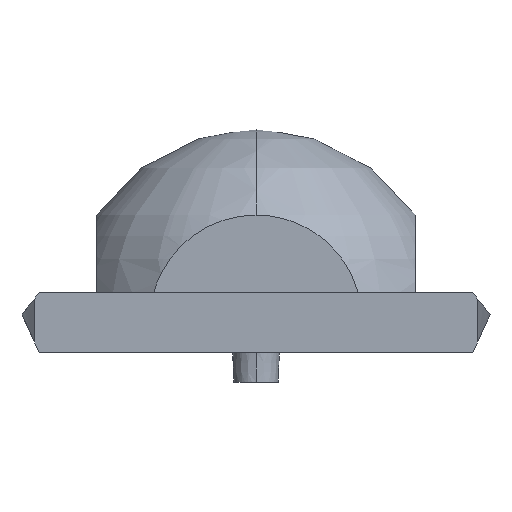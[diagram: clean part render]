
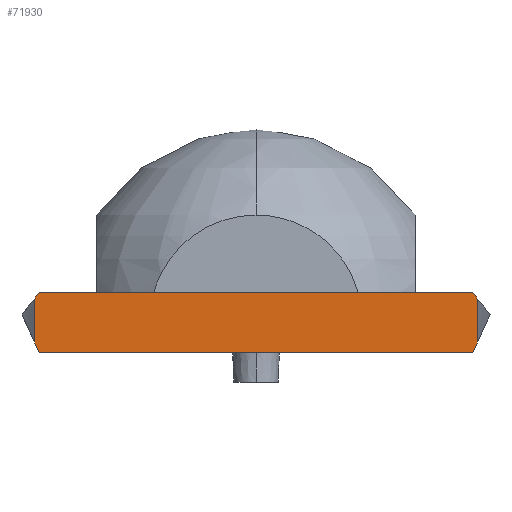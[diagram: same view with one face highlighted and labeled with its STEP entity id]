
A CAD part, left-side view. The second image highlights one B-rep face of the part: STEP entity #71930.
In plain terms, the highlighted planar face has unit normal (-1, 0, 0) as drawn and (0, 1, 0) by its records, which use the part's own axes.
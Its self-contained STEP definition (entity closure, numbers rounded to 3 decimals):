
#18320=CARTESIAN_POINT('',(96.201,9.55,
2.407));
#18330=VERTEX_POINT('',#18320);
#18500=CARTESIAN_POINT('',(96.001,9.55,2.85
));
#18510=VERTEX_POINT('',#18500);
#18540=CARTESIAN_POINT('',(96.701,9.55,1.3
));
#18550=DIRECTION('',(-0.412,0.,0.911));
#18560=VECTOR('',#18550,1.);
#18570=LINE('',#18540,#18560);
#18580=EDGE_CURVE('',#18330,#18510,#18570,.T.);
#19820=CARTESIAN_POINT('',(96.201,9.55,
0.657));
#19830=VERTEX_POINT('',#19820);
#19860=CARTESIAN_POINT('',(96.701,9.55,1.3
));
#19870=DIRECTION('',(0.614,0.,0.789));
#19880=VECTOR('',#19870,1.);
#19890=LINE('',#19860,#19880);
#19900=CARTESIAN_POINT('',(96.001,9.55,
0.4));
#19910=VERTEX_POINT('',#19900);
#19920=EDGE_CURVE('',#19910,#19830,#19890,.T.);
#25240=CARTESIAN_POINT('',(96.201,9.55,1.3
));
#25250=DIRECTION('',(0.,0.,-1.));
#25260=VECTOR('',#25250,1.);
#25270=LINE('',#25240,#25260);
#25280=EDGE_CURVE('',#18330,#19830,#25270,.T.);
#28180=CARTESIAN_POINT('',(51.749,9.55,
0.4));
#28190=DIRECTION('',(-1.,0.,0.));
#28200=VECTOR('',#28190,1.);
#28210=LINE('',#28180,#28200);
#28220=CARTESIAN_POINT('',(78.301,9.55,
0.4));
#28230=VERTEX_POINT('',#28220);
#28240=EDGE_CURVE('',#19910,#28230,#28210,.T.);
#30110=CARTESIAN_POINT('',(78.101,9.55,
2.407));
#30120=VERTEX_POINT('',#30110);
#30150=CARTESIAN_POINT('',(77.601,9.55,1.3
));
#30160=DIRECTION('',(-0.412,0.,-0.911));
#30170=VECTOR('',#30160,1.);
#30180=LINE('',#30150,#30170);
#30190=CARTESIAN_POINT('',(78.301,9.55,2.85
));
#30200=VERTEX_POINT('',#30190);
#30210=EDGE_CURVE('',#30200,#30120,#30180,.T.);
#57120=CARTESIAN_POINT('',(78.101,9.55,
0.657));
#57130=VERTEX_POINT('',#57120);
#57290=CARTESIAN_POINT('',(77.601,9.55,1.3
));
#57300=DIRECTION('',(0.614,0.,-0.789));
#57310=VECTOR('',#57300,1.);
#57320=LINE('',#57290,#57310);
#57330=EDGE_CURVE('',#57130,#28230,#57320,.T.);
#62950=CARTESIAN_POINT('',(51.749,9.55,2.85
));
#62960=DIRECTION('',(-1.,0.,0.));
#62970=VECTOR('',#62960,1.);
#62980=LINE('',#62950,#62970);
#62990=EDGE_CURVE('',#18510,#30200,#62980,.T.);
#70930=CARTESIAN_POINT('',(78.101,9.55,1.3
));
#70940=DIRECTION('',(0.,0.,1.));
#70950=VECTOR('',#70940,1.);
#70960=LINE('',#70930,#70950);
#70970=EDGE_CURVE('',#57130,#30120,#70960,.T.);
#71780=CARTESIAN_POINT('',(102.226,9.55,
-7.768));
#71790=DIRECTION('',(-0.,-1.,-0.));
#71800=DIRECTION('',(-1.,0.,0.));
#71810=AXIS2_PLACEMENT_3D('',#71780,#71790,#71800);
#71820=PLANE('',#71810);
#71830=ORIENTED_EDGE('',*,*,#57330,.F.);
#71840=ORIENTED_EDGE('',*,*,#28240,.T.);
#71850=ORIENTED_EDGE('',*,*,#19920,.F.);
#71860=ORIENTED_EDGE('',*,*,#25280,.T.);
#71870=ORIENTED_EDGE('',*,*,#18580,.F.);
#71880=ORIENTED_EDGE('',*,*,#62990,.F.);
#71890=ORIENTED_EDGE('',*,*,#30210,.F.);
#71900=ORIENTED_EDGE('',*,*,#70970,.T.);
#71910=EDGE_LOOP('',(#71900,#71890,#71880,#71870,#71860,#71850,#71840,
#71830));
#71920=FACE_OUTER_BOUND('',#71910,.T.);
#71930=ADVANCED_FACE('',(#71920),#71820,.F.);
